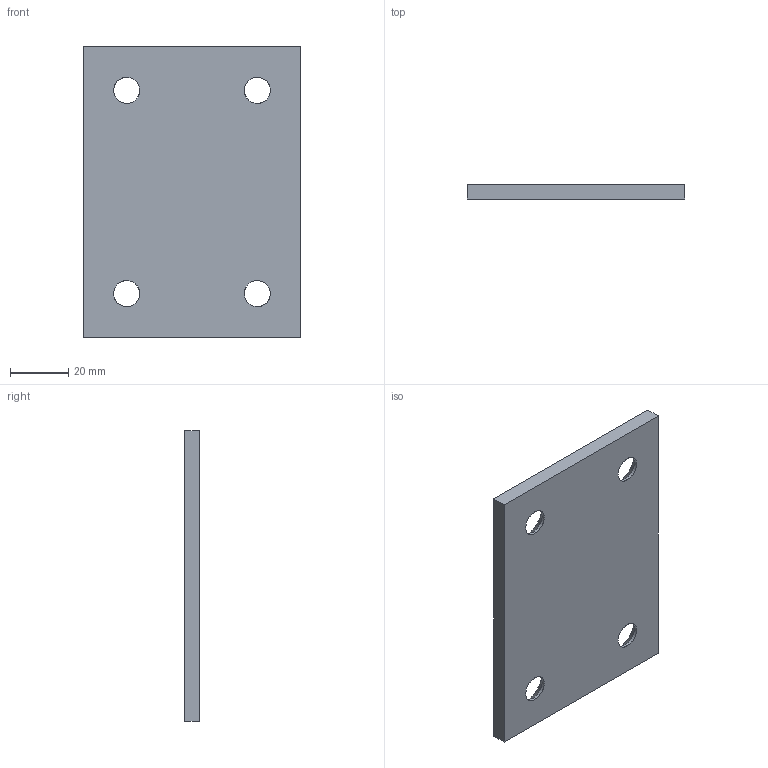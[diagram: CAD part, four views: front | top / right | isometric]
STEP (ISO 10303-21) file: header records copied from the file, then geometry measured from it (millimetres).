
FILE_DESCRIPTION(('CATIA V5 STEP Exchange'),'2;1');
FILE_NAME('C:\Users\Utente\Desktop\3D files A605\A605-075-100.stp','2020-04-13T15:43:29+00:00',('none'),('none'),'CATIA Version 5 Release 20 GA (IN-10)','CATIA V5 STEP AP203','none');
FILE_SCHEMA(('CONFIG_CONTROL_DESIGN'));
Length unit declared in the file: millimetre
Products named in the file (1): Noname
Bounding box: 75 x 5 x 100 mm (x, y, z)
Surface area: 16624.9 mm2 (no closed solid volume)
Topology: 0 solids, 14 shells, 22 faces, 88 edges, 72 vertices
Faces by surface type: cylinder 8, revolution 8, extrusion 6
Entity records: 1146 total; most frequent: CARTESIAN_POINT 405, ORIENTED_EDGE 104, DIRECTION 102, EDGE_CURVE 88, VERTEX_POINT 72, VECTOR 46, AXIS2_PLACEMENT_3D 41, LINE 40
